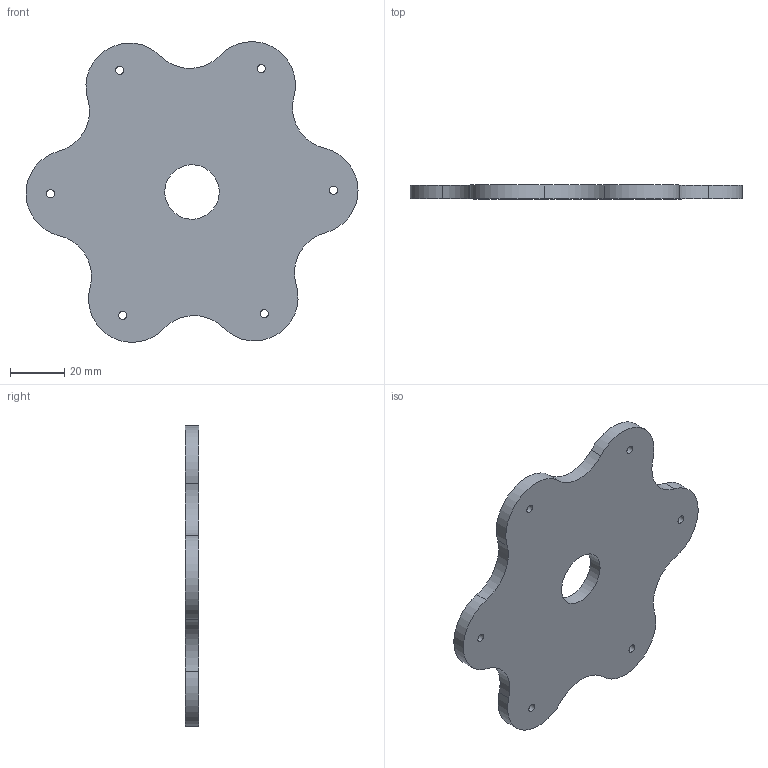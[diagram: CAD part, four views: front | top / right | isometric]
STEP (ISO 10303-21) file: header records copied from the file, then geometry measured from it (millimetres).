
FILE_DESCRIPTION(/* description */ ('STEP AP242 Edition 2','CAx-IF Rec.Pracs.---Representation and Presentation of Product Manufacturing Information (PMI)---4.0---2014-10-13','CAx-IF Rec.Pracs.---3D Tessellated Geometry---0.4---2014-09-14','2;1','CAx-IF Rec.Pracs.---User Defined Attributes---1.5---2016-08-15'),/* implementation_level */ '2;1');
FILE_NAME(/* name */ 'Assembly 1 - Holder',/* time_stamp */ '2026-08-25T12:50:00Z',/* author */ (''),/* organization */ (''),/* preprocessor_version */ 'ST-DEVELOPER v20',/* originating_system */ 'ONSHAPE BY PTC INC, 1.219',/* authorisation */ ' ');
FILE_SCHEMA (('AP242_MANAGED_MODEL_BASED_3D_ENGINEERING_MIM_LF { 1 0 10303 442 3 1 4 }'));
Length unit declared in the file: metre
Products named in the file (1): Holder
Bounding box: 121.99 x 5 x 110.47 mm (x, y, z)
Volume: 43092 mm3; surface area: 20933.1 mm2
Topology: 1 solids, 1 shells, 31 faces, 82 edges, 55 vertices
Faces by surface type: cylinder 19, plane 12
Full cylindrical faces by diameter (mm): 3 x6, 20.02 x1
Entity records: 988 total; most frequent: DIRECTION 176, CARTESIAN_POINT 160, ORIENTED_EDGE 148, EDGE_CURVE 74, AXIS2_PLACEMENT_3D 70, VERTEX_POINT 54, EDGE_LOOP 54, FACE_BOUND 54
